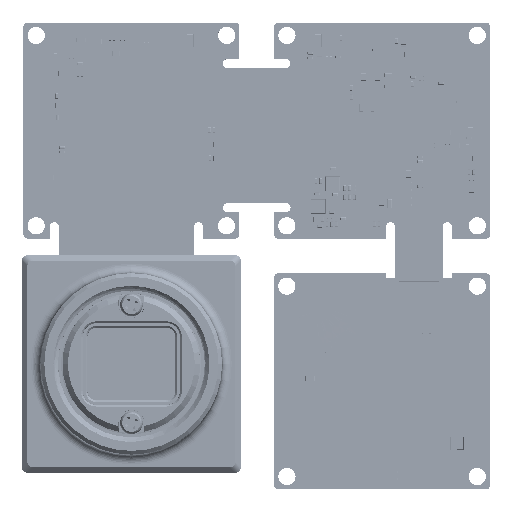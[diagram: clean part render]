
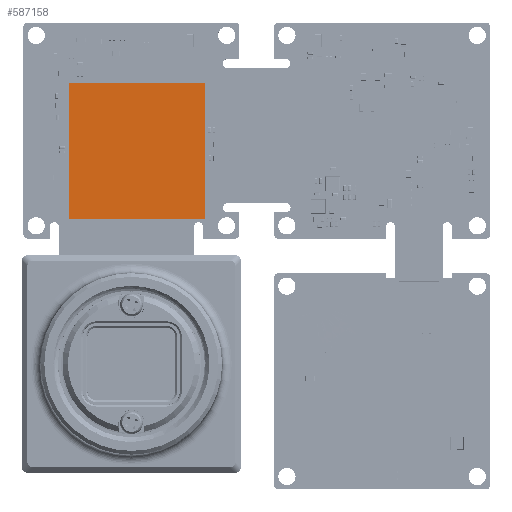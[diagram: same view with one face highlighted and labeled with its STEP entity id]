
A CAD part, top view. The second image highlights one B-rep face of the part: STEP entity #587158.
In plain terms, the highlighted planar face has unit normal (0, 0, 1).
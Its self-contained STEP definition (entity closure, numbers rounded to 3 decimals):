
#5831 = VECTOR ( 'NONE', #277533, 1000. ) ;
#32838 = DIRECTION ( 'NONE',  ( -1., 0., 0. ) ) ;
#37570 = CARTESIAN_POINT ( 'NONE',  ( -6.84, 15.999, -0.75 ) ) ;
#50576 = CARTESIAN_POINT ( 'NONE',  ( 8.16, 30.999, -0.75 ) ) ;
#59220 = LINE ( 'NONE', #37570, #5831 ) ;
#89303 = CARTESIAN_POINT ( 'NONE',  ( -6.84, 30.999, -0.75 ) ) ;
#96810 = ORIENTED_EDGE ( 'NONE', *, *, #273776, .T. ) ;
#98169 = AXIS2_PLACEMENT_3D ( 'NONE', #325131, #320917, #175601 ) ;
#114484 = DIRECTION ( 'NONE',  ( 0., 1., 0. ) ) ;
#126170 = PLANE ( 'NONE',  #98169 ) ;
#174407 = ORIENTED_EDGE ( 'NONE', *, *, #447845, .T. ) ;
#175601 = DIRECTION ( 'NONE',  ( 0., -1., 0. ) ) ;
#183479 = VECTOR ( 'NONE', #114484, 1000. ) ;
#219432 = LINE ( 'NONE', #89303, #234826 ) ;
#221540 = LINE ( 'NONE', #354142, #183479 ) ;
#234826 = VECTOR ( 'NONE', #237213, 1000. ) ;
#235021 = VERTEX_POINT ( 'NONE', #313366 ) ;
#237213 = DIRECTION ( 'NONE',  ( 0., -1., 0. ) ) ;
#241800 = FACE_OUTER_BOUND ( 'NONE', #504519, .T. ) ;
#273776 = EDGE_CURVE ( 'NONE', #235021, #505005, #221540, .T. ) ;
#277533 = DIRECTION ( 'NONE',  ( 1., 0., 0. ) ) ;
#313366 = CARTESIAN_POINT ( 'NONE',  ( 8.16, 15.999, -0.75 ) ) ;
#320917 = DIRECTION ( 'NONE',  ( 0., 0., -1. ) ) ;
#325131 = CARTESIAN_POINT ( 'NONE',  ( 8.16, 15.999, -0.75 ) ) ;
#354142 = CARTESIAN_POINT ( 'NONE',  ( 8.16, 15.999, -0.75 ) ) ;
#392079 = ORIENTED_EDGE ( 'NONE', *, *, #536060, .T. ) ;
#394585 = VECTOR ( 'NONE', #32838, 1000. ) ;
#398504 = EDGE_CURVE ( 'NONE', #581281, #513030, #219432, .T. ) ;
#433515 = CARTESIAN_POINT ( 'NONE',  ( -6.84, 15.999, -0.75 ) ) ;
#447845 = EDGE_CURVE ( 'NONE', #505005, #581281, #600932, .T. ) ;
#463654 = CARTESIAN_POINT ( 'NONE',  ( -6.84, 30.999, -0.75 ) ) ;
#499189 = ORIENTED_EDGE ( 'NONE', *, *, #398504, .T. ) ;
#504519 = EDGE_LOOP ( 'NONE', ( #174407, #499189, #392079, #96810 ) ) ;
#505005 = VERTEX_POINT ( 'NONE', #50576 ) ;
#513030 = VERTEX_POINT ( 'NONE', #433515 ) ;
#536060 = EDGE_CURVE ( 'NONE', #513030, #235021, #59220, .T. ) ;
#570018 = CARTESIAN_POINT ( 'NONE',  ( 8.16, 30.999, -0.75 ) ) ;
#581281 = VERTEX_POINT ( 'NONE', #463654 ) ;
#587158 = ADVANCED_FACE ( 'NONE', ( #241800 ), #126170, .F. ) ;
#600932 = LINE ( 'NONE', #570018, #394585 ) ;
